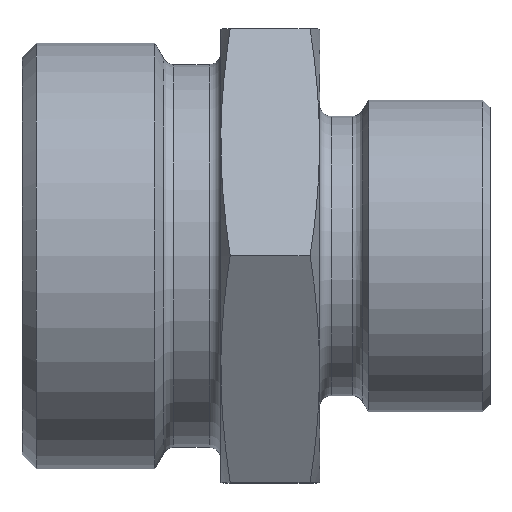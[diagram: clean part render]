
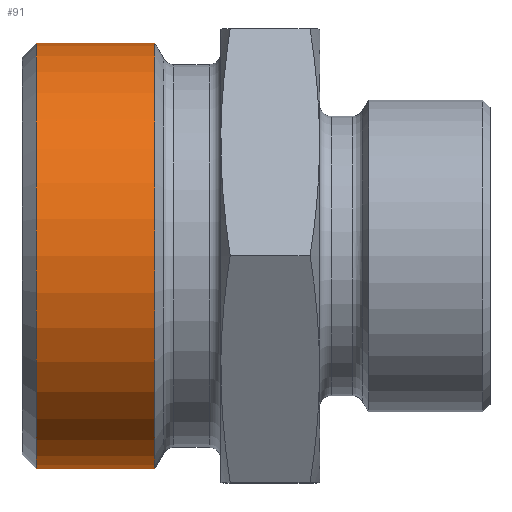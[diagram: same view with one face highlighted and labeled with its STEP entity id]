
A CAD part, top view. The second image highlights one B-rep face of the part: STEP entity #91.
In plain terms, the highlighted cylindrical face has radius 15 mm (diameter 30 mm), a full revolution.
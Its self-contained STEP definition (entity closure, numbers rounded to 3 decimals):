
#91 = ADVANCED_FACE( '', ( #202, #203 ), #204, .T. );
#202 = FACE_OUTER_BOUND( '', #335, .T. );
#203 = FACE_OUTER_BOUND( '', #336, .T. );
#204 = CYLINDRICAL_SURFACE( '', #337, 15. );
#335 = EDGE_LOOP( '', ( #519 ) );
#336 = EDGE_LOOP( '', ( #520 ) );
#337 = AXIS2_PLACEMENT_3D( '', #521, #522, #523 );
#519 = ORIENTED_EDGE( '', *, *, #673, .T. );
#520 = ORIENTED_EDGE( '', *, *, #674, .T. );
#521 = CARTESIAN_POINT( '', ( -60., 0., 0. ) );
#522 = DIRECTION( '', ( 1., 0., 0. ) );
#523 = DIRECTION( '', ( 0., 0., 1. ) );
#673 = EDGE_CURVE( '', #780, #780, #781, .F. );
#674 = EDGE_CURVE( '', #782, #782, #783, .T. );
#780 = VERTEX_POINT( '', #1001 );
#781 = CIRCLE( '', #1002, 15. );
#782 = VERTEX_POINT( '', #1003 );
#783 = CIRCLE( '', #1004, 15. );
#1001 = CARTESIAN_POINT( '', ( -32., 0., 15. ) );
#1002 = AXIS2_PLACEMENT_3D( '', #1092, #1093, #1094 );
#1003 = CARTESIAN_POINT( '', ( -23.635, 0., 15. ) );
#1004 = AXIS2_PLACEMENT_3D( '', #1095, #1096, #1097 );
#1092 = CARTESIAN_POINT( '', ( -32., 0., 0. ) );
#1093 = DIRECTION( '', ( -1., 0., 0. ) );
#1094 = DIRECTION( '', ( 0., 0., 1. ) );
#1095 = CARTESIAN_POINT( '', ( -23.635, 0., 0. ) );
#1096 = DIRECTION( '', ( -1., 0., 0. ) );
#1097 = DIRECTION( '', ( 0., 0., 1. ) );
